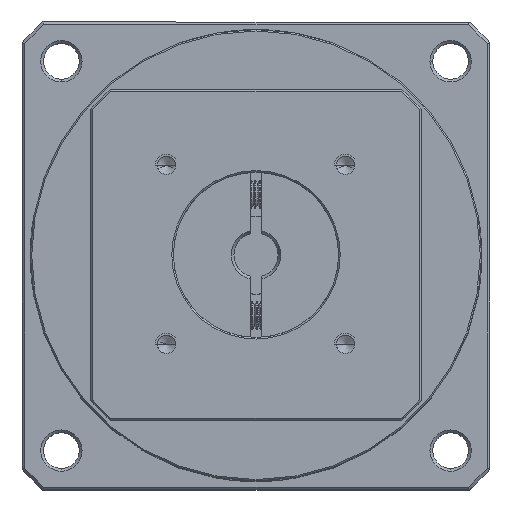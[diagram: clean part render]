
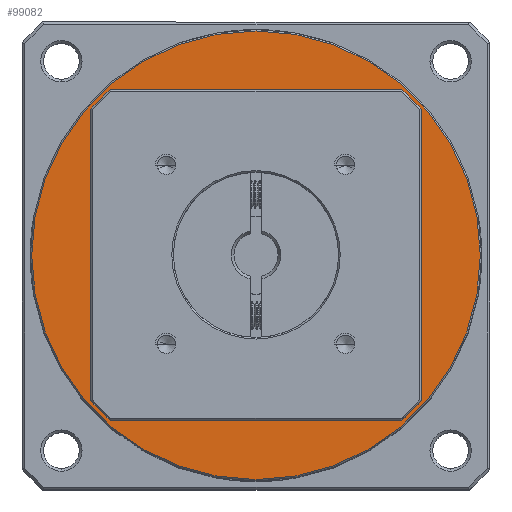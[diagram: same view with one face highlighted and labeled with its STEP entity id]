
A CAD part, top view. The second image highlights one B-rep face of the part: STEP entity #99082.
In plain terms, the highlighted planar face has unit normal (0, 0, 1).
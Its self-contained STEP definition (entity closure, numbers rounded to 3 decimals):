
#133 = VERTEX_POINT ( 'NONE', #81849 ) ;
#160 = EDGE_CURVE ( 'NONE', #61348, #133, #35820, .T. ) ;
#9153 = ORIENTED_EDGE ( 'NONE', *, *, #45349, .F. ) ;
#15798 = CIRCLE ( 'NONE', #86116, 40.75 ) ;
#19865 = DIRECTION ( 'NONE',  ( 0., 0., 1. ) ) ;
#25698 = AXIS2_PLACEMENT_3D ( 'NONE', #80040, #30020, #88415 ) ;
#27535 = PLANE ( 'NONE',  #35589 ) ;
#29874 = CARTESIAN_POINT ( 'NONE',  ( -63.704, 21.409, -20.099 ) ) ;
#30020 = DIRECTION ( 'NONE',  ( 0., 0., -1. ) ) ;
#33525 = DIRECTION ( 'NONE',  ( 0., 0., -1. ) ) ;
#35589 = AXIS2_PLACEMENT_3D ( 'NONE', #69682, #19865, #78193 ) ;
#35820 = CIRCLE ( 'NONE', #75364, 30. ) ;
#36569 = ORIENTED_EDGE ( 'NONE', *, *, #160, .T. ) ;
#38111 = DIRECTION ( 'NONE',  ( -1., 0., 0. ) ) ;
#43596 = AXIS2_PLACEMENT_3D ( 'NONE', #29874, #88266, #38111 ) ;
#45349 = EDGE_CURVE ( 'NONE', #96417, #103392, #73150, .T. ) ;
#47664 = CARTESIAN_POINT ( 'NONE',  ( -104.454, 21.409, -20.099 ) ) ;
#61348 = VERTEX_POINT ( 'NONE', #70821 ) ;
#62870 = FACE_BOUND ( 'NONE', #80003, .T. ) ;
#65359 = ORIENTED_EDGE ( 'NONE', *, *, #95454, .T. ) ;
#69682 = CARTESIAN_POINT ( 'NONE',  ( -63.704, 21.409, -20.099 ) ) ;
#70821 = CARTESIAN_POINT ( 'NONE',  ( -93.704, 21.409, -20.099 ) ) ;
#72489 = EDGE_CURVE ( 'NONE', #103392, #96417, #15798, .T. ) ;
#73150 = CIRCLE ( 'NONE', #43596, 40.75 ) ;
#75364 = AXIS2_PLACEMENT_3D ( 'NONE', #78920, #78785, #78766 ) ;
#78193 = DIRECTION ( 'NONE',  ( 1., 0., 0. ) ) ;
#78766 = DIRECTION ( 'NONE',  ( -1., 0., 0. ) ) ;
#78785 = DIRECTION ( 'NONE',  ( 0., 0., -1. ) ) ;
#78920 = CARTESIAN_POINT ( 'NONE',  ( -63.704, 21.409, -20.099 ) ) ;
#80003 = EDGE_LOOP ( 'NONE', ( #36569, #65359 ) ) ;
#80040 = CARTESIAN_POINT ( 'NONE',  ( -63.704, 21.409, -20.099 ) ) ;
#81849 = CARTESIAN_POINT ( 'NONE',  ( -33.704, 21.409, -20.099 ) ) ;
#83639 = CARTESIAN_POINT ( 'NONE',  ( -63.704, 21.409, -20.099 ) ) ;
#86116 = AXIS2_PLACEMENT_3D ( 'NONE', #83639, #33525, #91953 ) ;
#88254 = ORIENTED_EDGE ( 'NONE', *, *, #72489, .F. ) ;
#88266 = DIRECTION ( 'NONE',  ( 0., 0., -1. ) ) ;
#88415 = DIRECTION ( 'NONE',  ( -1., 0., 0. ) ) ;
#91953 = DIRECTION ( 'NONE',  ( -1., 0., 0. ) ) ;
#94910 = CIRCLE ( 'NONE', #25698, 30. ) ;
#95454 = EDGE_CURVE ( 'NONE', #133, #61348, #94910, .T. ) ;
#96417 = VERTEX_POINT ( 'NONE', #98992 ) ;
#98971 = EDGE_LOOP ( 'NONE', ( #88254, #9153 ) ) ;
#98992 = CARTESIAN_POINT ( 'NONE',  ( -22.954, 21.409, -20.099 ) ) ;
#99082 = ADVANCED_FACE ( 'NONE', ( #104477, #62870 ), #27535, .T. ) ;
#103392 = VERTEX_POINT ( 'NONE', #47664 ) ;
#104477 = FACE_OUTER_BOUND ( 'NONE', #98971, .T. ) ;
